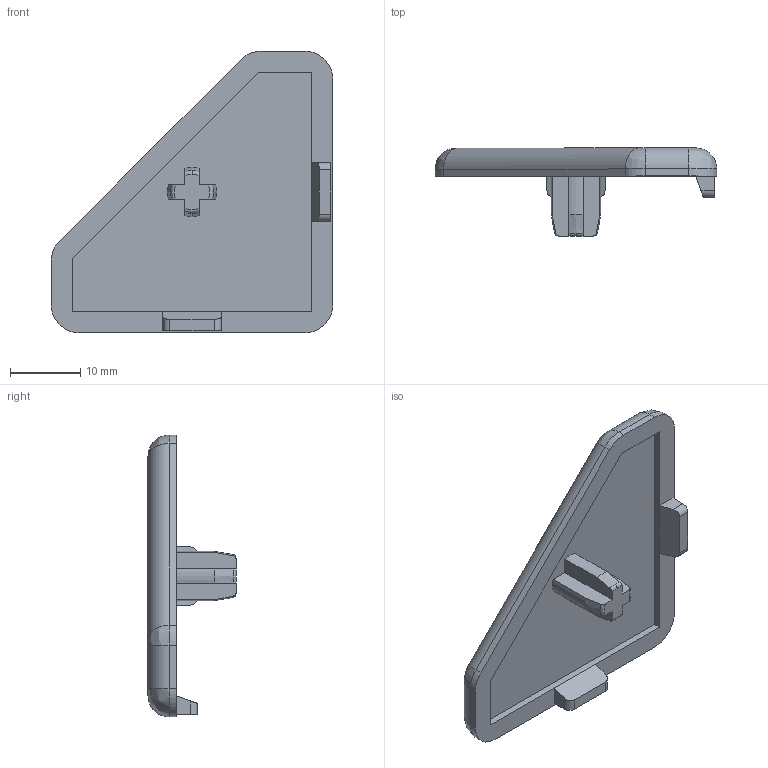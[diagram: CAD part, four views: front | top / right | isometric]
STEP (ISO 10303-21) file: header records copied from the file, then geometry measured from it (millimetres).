
FILE_DESCRIPTION (( 'STEP AP203' ), '1' );
FILE_NAME ('10010_ABD404045.STEP', '2018-02-22T14:42:12', ( '' ), ( '' ), 'SwSTEP 2.0', 'SolidWorks 2017', '' );
FILE_SCHEMA (( 'CONFIG_CONTROL_DESIGN' ));
Length unit declared in the file: millimetre
Products named in the file (1): 10010_ABD404045
Bounding box: 40 x 12.5 x 40 mm (x, y, z)
Volume: 4026.2 mm3; surface area: 3225 mm2
Topology: 1 solids, 1 shells, 66 faces, 171 edges, 109 vertices
Faces by surface type: plane 32, cylinder 19, bspline 10, cone 5
Entity records: 2220 total; most frequent: CARTESIAN_POINT 605, ORIENTED_EDGE 342, DIRECTION 296, EDGE_CURVE 171, VERTEX_POINT 109, VECTOR 100, LINE 100, AXIS2_PLACEMENT_3D 98
